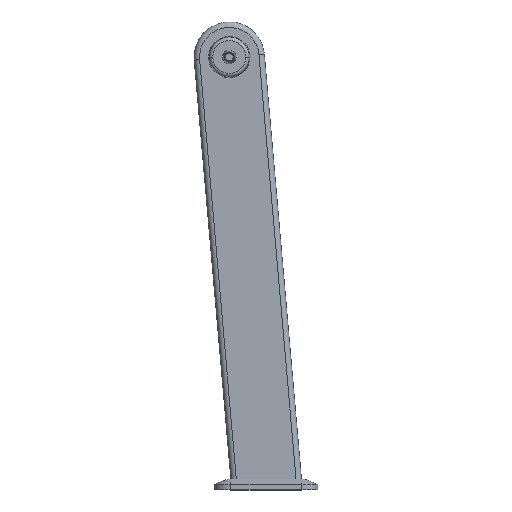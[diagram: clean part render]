
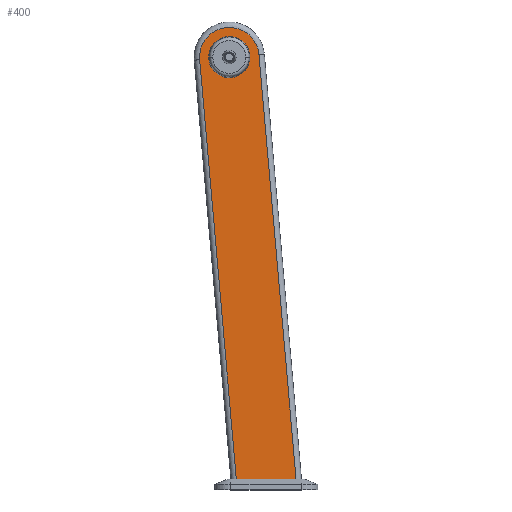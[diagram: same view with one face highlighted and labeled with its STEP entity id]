
A CAD part, top view. The second image highlights one B-rep face of the part: STEP entity #400.
In plain terms, the highlighted planar face has unit normal (0, 0, 1).
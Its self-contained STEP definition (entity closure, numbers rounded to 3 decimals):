
#17 = ORIENTED_EDGE ( 'NONE', *, *, #1872, .F. ) ;
#36 = VERTEX_POINT ( 'NONE', #2483 ) ;
#49 = AXIS2_PLACEMENT_3D ( 'NONE', #3193, #2270, #758 ) ;
#127 = LINE ( 'NONE', #1549, #853 ) ;
#169 = VERTEX_POINT ( 'NONE', #576 ) ;
#258 = DIRECTION ( 'NONE',  ( 0.087, -0.996, 0. ) ) ;
#267 = CARTESIAN_POINT ( 'NONE',  ( 0., 0., 31.25 ) ) ;
#390 = EDGE_CURVE ( 'NONE', #169, #872, #127, .T. ) ;
#400 = ADVANCED_FACE ( 'NONE', ( #1559, #2752 ), #482, .T. ) ;
#432 = CARTESIAN_POINT ( 'NONE',  ( 0., 0., 31.25 ) ) ;
#482 = PLANE ( 'NONE',  #49 ) ;
#523 = EDGE_CURVE ( 'NONE', #2723, #36, #1398, .T. ) ;
#556 = DIRECTION ( 'NONE',  ( 1., 0., 0. ) ) ;
#576 = CARTESIAN_POINT ( 'NONE',  ( 123.451, -780., 31.25 ) ) ;
#587 = VERTEX_POINT ( 'NONE', #1153 ) ;
#624 = ORIENTED_EDGE ( 'NONE', *, *, #2484, .F. ) ;
#708 = DIRECTION ( 'NONE',  ( 1., 0., 0. ) ) ;
#758 = DIRECTION ( 'NONE',  ( 1., 0., 0. ) ) ;
#761 = EDGE_CURVE ( 'NONE', #872, #2723, #3109, .T. ) ;
#853 = VECTOR ( 'NONE', #2970, 1000. ) ;
#872 = VERTEX_POINT ( 'NONE', #2296 ) ;
#917 = VERTEX_POINT ( 'NONE', #1360 ) ;
#1030 = CARTESIAN_POINT ( 'NONE',  ( 0., 0., 31.25 ) ) ;
#1128 = ORIENTED_EDGE ( 'NONE', *, *, #761, .T. ) ;
#1153 = CARTESIAN_POINT ( 'NONE',  ( 38., 0., 31.25 ) ) ;
#1154 = EDGE_LOOP ( 'NONE', ( #624, #17 ) ) ;
#1249 = AXIS2_PLACEMENT_3D ( 'NONE', #432, #2224, #708 ) ;
#1308 = DIRECTION ( 'NONE',  ( 1., 0., 0. ) ) ;
#1341 = EDGE_LOOP ( 'NONE', ( #2115, #1128, #2365, #3023 ) ) ;
#1360 = CARTESIAN_POINT ( 'NONE',  ( -38., 0., 31.25 ) ) ;
#1371 = AXIS2_PLACEMENT_3D ( 'NONE', #267, #2102, #556 ) ;
#1398 = LINE ( 'NONE', #2104, #3076 ) ;
#1549 = CARTESIAN_POINT ( 'NONE',  ( 54.791, 4.794, 31.25 ) ) ;
#1559 = FACE_OUTER_BOUND ( 'NONE', #1341, .T. ) ;
#1733 = CARTESIAN_POINT ( 'NONE',  ( -54.791, -4.794, 31.25 ) ) ;
#1792 = DIRECTION ( 'NONE',  ( 1., 0., 0. ) ) ;
#1796 = VECTOR ( 'NONE', #1792, 1000. ) ;
#1800 = CIRCLE ( 'NONE', #1371, 38. ) ;
#1872 = EDGE_CURVE ( 'NONE', #917, #587, #2893, .T. ) ;
#2102 = DIRECTION ( 'NONE',  ( 0., 0., 1. ) ) ;
#2104 = CARTESIAN_POINT ( 'NONE',  ( 14.705, -799.128, 31.25 ) ) ;
#2115 = ORIENTED_EDGE ( 'NONE', *, *, #390, .T. ) ;
#2224 = DIRECTION ( 'NONE',  ( 0., 0., 1. ) ) ;
#2270 = DIRECTION ( 'NONE',  ( 0., 0., 1. ) ) ;
#2296 = CARTESIAN_POINT ( 'NONE',  ( 54.791, 4.794, 31.25 ) ) ;
#2365 = ORIENTED_EDGE ( 'NONE', *, *, #523, .T. ) ;
#2483 = CARTESIAN_POINT ( 'NONE',  ( 13.031, -780., 31.25 ) ) ;
#2484 = EDGE_CURVE ( 'NONE', #587, #917, #1800, .T. ) ;
#2500 = LINE ( 'NONE', #2965, #1796 ) ;
#2535 = AXIS2_PLACEMENT_3D ( 'NONE', #1030, #2759, #1308 ) ;
#2723 = VERTEX_POINT ( 'NONE', #1733 ) ;
#2752 = FACE_BOUND ( 'NONE', #1154, .T. ) ;
#2759 = DIRECTION ( 'NONE',  ( 0., 0., 1. ) ) ;
#2871 = EDGE_CURVE ( 'NONE', #36, #169, #2500, .T. ) ;
#2893 = CIRCLE ( 'NONE', #2535, 38. ) ;
#2965 = CARTESIAN_POINT ( 'NONE',  ( 0., -780., 31.25 ) ) ;
#2970 = DIRECTION ( 'NONE',  ( -0.087, 0.996, 0. ) ) ;
#3023 = ORIENTED_EDGE ( 'NONE', *, *, #2871, .T. ) ;
#3076 = VECTOR ( 'NONE', #258, 1000. ) ;
#3109 = CIRCLE ( 'NONE', #1249, 55. ) ;
#3193 = CARTESIAN_POINT ( 'NONE',  ( 0., 0., 31.25 ) ) ;
